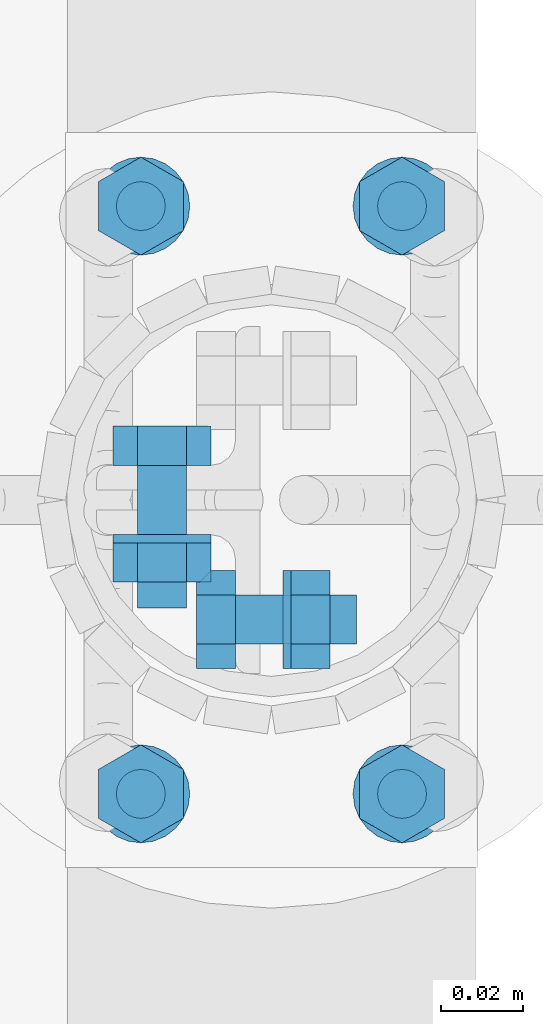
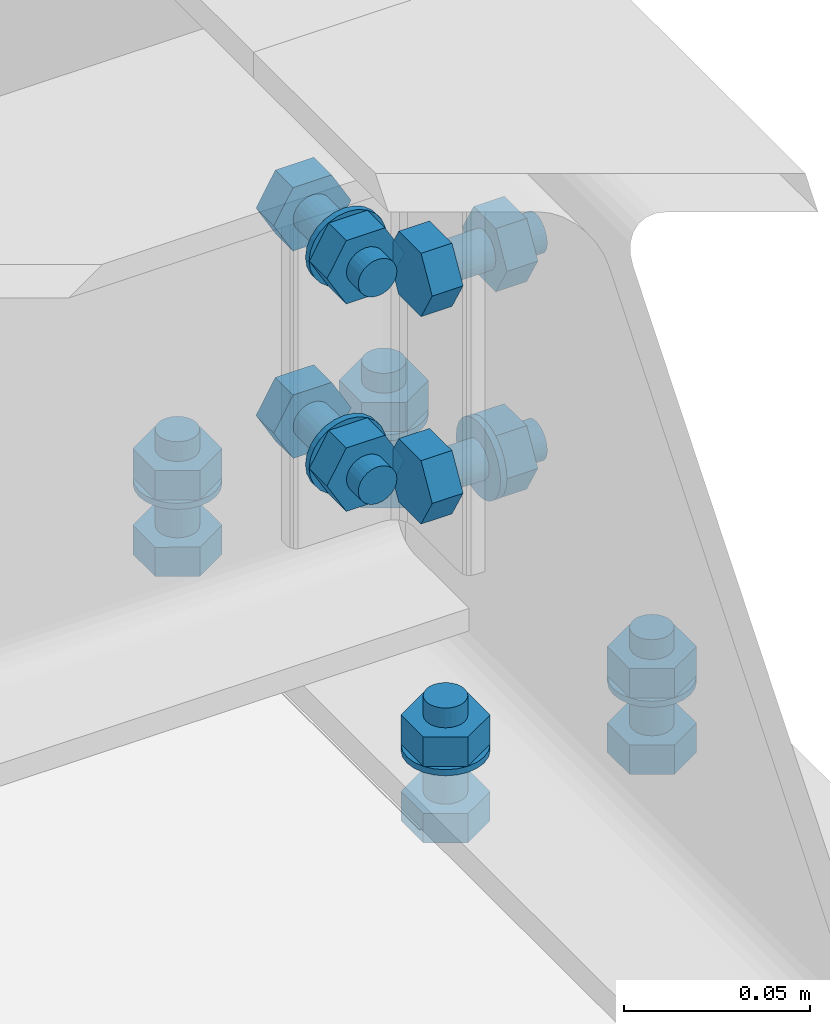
# One storey, part 38 of 84: 39 mechanical fasteners.
"""IFC4 building model written with IfcOpenShell, lengths in metres."""

from ifc_helpers import new_model, si_unit, frame, origin_with_axes, place, context, project, spatial, polyline, outline, extrude, type_object, element, save


model = new_model("IFC4")

# Units and contexts
model_context = context("Model", 3, precision=1e-05, world=origin_with_axes())
ifc_project = project(units=[si_unit("LENGTHUNIT", "METRE"), si_unit("AREAUNIT", "SQUARE_METRE"), si_unit("VOLUMEUNIT", "CUBIC_METRE"), si_unit("MASSUNIT", "GRAM", prefix="KILO"), si_unit("TIMEUNIT", "SECOND"), si_unit("PLANEANGLEUNIT", "RADIAN"), si_unit("SOLIDANGLEUNIT", "STERADIAN"), si_unit("THERMODYNAMICTEMPERATUREUNIT", "DEGREE_CELSIUS")], contexts=[model_context])

# Site, building, storey
placement_1 = place(None, origin_with_axes())
site = spatial("IfcSite", under=ifc_project, at=placement_1, Name="Italia", CompositionType="ELEMENT")
building = spatial("IfcBuilding", under=site, at=placement_1, Name="Tettoia", CompositionType="ELEMENT")
storey_placement = place(None, frame((0.0, 0.0, 4.199999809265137), z_axis=(0.0, 0.0, 1.0), x_axis=(1.0, 0.0, 0.0)))
storey = spatial("IfcBuildingStorey", under=building, at=storey_placement, Name="Storey 1", CompositionType="ELEMENT", Elevation=4.199999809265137)

# Mechanical fasteners
mechanical_fastener_type_1 = type_object("IfcMechanicalFastenerType", Name="Collegamento 0106_-006", PredefinedType="BOLT")
placement_2 = place(placement_1, origin_with_axes())
mechanical_fastener_1_placement = place(placement_2, origin_with_axes())
element("IfcMechanicalFastener", 1, at=mechanical_fastener_1_placement, inside=storey, type_object=mechanical_fastener_type_1, Name="Collegamento 0106_-006", NominalDiameter=0.0119999, context=model_context, shape_type="SweptSolid", body=[
    extrude(outline(polyline([(0.0, 0.0), (0.0120001, 0.0), (0.0180001, -0.0103931), (0.0120001, -0.0207853), (0.0, -0.0207853), (-0.00600004, -0.0103931), (0.0, 0.0)])), frame((11.3324, 7.366, 4.195), z_axis=(0.0, 0.0, -1.0), x_axis=(0.0, 1.0, 0.0)), (0.0, 0.0, 1.0), 0.00959969),
])
mechanical_fastener_type_2 = type_object("IfcMechanicalFastenerType", Name="Collegamento 0106_-006", PredefinedType="BOLT")
mechanical_fastener_2_placement = place(placement_2, origin_with_axes())
element("IfcMechanicalFastener", 2, at=mechanical_fastener_2_placement, inside=storey, type_object=mechanical_fastener_type_2, Name="Collegamento 0106_-006", NominalDiameter=0.012, context=model_context, shape_type="SweptSolid", body=[
    extrude(outline(polyline([(0.0, 0.0), (-0.000204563, -0.00155258), (-0.000803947, -0.00300026), (-0.00175762, -0.0042429), (-0.00300026, -0.00519657), (-0.00444698, -0.00579548), (-0.00600004, -0.00599957), (-0.0075531, -0.00579548), (-0.00899982, -0.00519657), (-0.0102425, -0.0042429), (-0.0111961, -0.00300026), (-0.0117955, -0.00155258), (-0.0120001, 0.0), (-0.0117955, 0.00155258), (-0.0111961, 0.00300026), (-0.0102425, 0.0042429), (-0.00899982, 0.00519657), (-0.0075531, 0.00579548), (-0.00600004, 0.00599957), (-0.00444698, 0.00579548), (-0.00300026, 0.00519657), (-0.00175762, 0.0042429), (-0.000803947, 0.00300026), (-0.000204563, 0.00155258), (0.0, 0.0)])), frame((11.322, 7.378, 4.2265), z_axis=(0.0, 0.0, -1.0), x_axis=(0.0, 1.0, 0.0)), (0.0, 0.0, 1.0), 0.0315003),
])
mechanical_fastener_type_3 = type_object("IfcMechanicalFastenerType", Name="Collegamento 0106_-006", PredefinedType="BOLT")
mechanical_fastener_3_placement = place(placement_2, origin_with_axes())
element("IfcMechanicalFastener", 3, at=mechanical_fastener_3_placement, inside=storey, type_object=mechanical_fastener_type_3, Name="Collegamento 0106_-006", NominalDiameter=0.0119999, context=model_context, shape_type="SweptSolid", body=[
    extrude(outline(polyline([(0.0, 0.0), (0.0120001, 0.0), (0.0180001, -0.0103931), (0.0120001, -0.0207853), (0.0, -0.0207853), (-0.00600004, -0.0103931), (0.0, 0.0)])), frame((11.3324, 7.366, 4.2201), z_axis=(0.0, 0.0, -1.0), x_axis=(0.0, 1.0, 0.0)), (0.0, 0.0, 1.0), 0.00960016),
])
mechanical_fastener_type_4 = type_object("IfcMechanicalFastenerType", Name="Collegamento 0106_-006", PredefinedType="BOLT")
mechanical_fastener_4_placement = place(placement_2, origin_with_axes())
element("IfcMechanicalFastener", 4, at=mechanical_fastener_4_placement, inside=storey, type_object=mechanical_fastener_type_4, Name="Collegamento 0106_-006", NominalDiameter=0.024, context=model_context, shape_type="SweptSolid", body=[
    extrude(outline(polyline([(0.0, 0.0), (-0.000409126, -0.00310612), (-0.00160789, -0.00599957), (-0.00351477, -0.00848484), (-0.00600004, -0.0103922), (-0.00889444, -0.011591), (-0.0120001, -0.0120001), (-0.0151057, -0.011591), (-0.0180001, -0.0103922), (-0.0204854, -0.00848484), (-0.0223923, -0.00599957), (-0.023591, -0.00310612), (-0.0240002, 0.0), (-0.023591, 0.00310612), (-0.0223923, 0.00599957), (-0.0204854, 0.00848484), (-0.0180001, 0.0103922), (-0.0151057, 0.011591), (-0.0120001, 0.0120001), (-0.00889444, 0.011591), (-0.00600004, 0.0103922), (-0.00351477, 0.00848484), (-0.00160789, 0.00599957), (-0.000409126, 0.00310612), (0.0, 0.0)])), frame((11.322, 7.384, 4.2105), z_axis=(0.0, 0.0, -1.0), x_axis=(0.0, 1.0, 0.0)), (0.0, 0.0, 1.0), 0.00199986),
])
mechanical_fastener_type_5 = type_object("IfcMechanicalFastenerType", Name="Collegamento 0106_-006", PredefinedType="BOLT")
mechanical_fastener_5_placement = place(placement_2, origin_with_axes())
element("IfcMechanicalFastener", 5, at=mechanical_fastener_5_placement, inside=storey, type_object=mechanical_fastener_type_5, Name="Collegamento 0106_-006", NominalDiameter=0.0119999, context=model_context, shape_type="SweptSolid", body=[
    extrude(outline(polyline([(0.0, 0.0), (0.0120001, 0.0), (0.0180001, -0.0103931), (0.0120001, -0.0207853), (0.0, -0.0207853), (-0.00600004, -0.0103931), (0.0, 0.0)])), frame((11.3324, 7.222, 4.195), z_axis=(0.0, 0.0, -1.0), x_axis=(0.0, 1.0, 0.0)), (0.0, 0.0, 1.0), 0.00959969),
])
mechanical_fastener_type_6 = type_object("IfcMechanicalFastenerType", Name="Collegamento 0106_-006", PredefinedType="BOLT")
mechanical_fastener_6_placement = place(placement_2, origin_with_axes())
element("IfcMechanicalFastener", 6, at=mechanical_fastener_6_placement, inside=storey, type_object=mechanical_fastener_type_6, Name="Collegamento 0106_-006", NominalDiameter=0.012, context=model_context, shape_type="SweptSolid", body=[
    extrude(outline(polyline([(0.0, 0.0), (-0.000204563, -0.00155258), (-0.000803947, -0.00300026), (-0.00175762, -0.0042429), (-0.00300026, -0.00519657), (-0.00444698, -0.00579548), (-0.00600004, -0.00599957), (-0.0075531, -0.00579548), (-0.00899982, -0.00519657), (-0.0102425, -0.0042429), (-0.0111961, -0.00300026), (-0.0117955, -0.00155258), (-0.0120001, 0.0), (-0.0117955, 0.00155258), (-0.0111961, 0.00300026), (-0.0102425, 0.0042429), (-0.00899982, 0.00519657), (-0.0075531, 0.00579548), (-0.00600004, 0.00599957), (-0.00444698, 0.00579548), (-0.00300026, 0.00519657), (-0.00175762, 0.0042429), (-0.000803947, 0.00300026), (-0.000204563, 0.00155258), (0.0, 0.0)])), frame((11.322, 7.234, 4.2265), z_axis=(0.0, 0.0, -1.0), x_axis=(0.0, 1.0, 0.0)), (0.0, 0.0, 1.0), 0.0315003),
])
mechanical_fastener_type_7 = type_object("IfcMechanicalFastenerType", Name="Collegamento 0106_-006", PredefinedType="BOLT")
mechanical_fastener_7_placement = place(placement_2, origin_with_axes())
element("IfcMechanicalFastener", 7, at=mechanical_fastener_7_placement, inside=storey, type_object=mechanical_fastener_type_7, Name="Collegamento 0106_-006", NominalDiameter=0.0119999, context=model_context, shape_type="SweptSolid", body=[
    extrude(outline(polyline([(0.0, 0.0), (0.0120001, 0.0), (0.0180001, -0.0103931), (0.0120001, -0.0207853), (0.0, -0.0207853), (-0.00600004, -0.0103931), (0.0, 0.0)])), frame((11.3324, 7.222, 4.2201), z_axis=(0.0, 0.0, -1.0), x_axis=(0.0, 1.0, 0.0)), (0.0, 0.0, 1.0), 0.00960016),
])
mechanical_fastener_type_8 = type_object("IfcMechanicalFastenerType", Name="Collegamento 0106_-006", PredefinedType="BOLT")
mechanical_fastener_8_placement = place(placement_2, origin_with_axes())
element("IfcMechanicalFastener", 8, at=mechanical_fastener_8_placement, inside=storey, type_object=mechanical_fastener_type_8, Name="Collegamento 0106_-006", NominalDiameter=0.024, context=model_context, shape_type="SweptSolid", body=[
    extrude(outline(polyline([(0.0, 0.0), (-0.000409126, -0.00310612), (-0.00160789, -0.00599957), (-0.00351477, -0.00848484), (-0.00600004, -0.0103922), (-0.00889444, -0.011591), (-0.0120001, -0.0120001), (-0.0151057, -0.011591), (-0.0180001, -0.0103922), (-0.0204854, -0.00848484), (-0.0223923, -0.00599957), (-0.023591, -0.00310612), (-0.0240002, 0.0), (-0.023591, 0.00310612), (-0.0223923, 0.00599957), (-0.0204854, 0.00848484), (-0.0180001, 0.0103922), (-0.0151057, 0.011591), (-0.0120001, 0.0120001), (-0.00889444, 0.011591), (-0.00600004, 0.0103922), (-0.00351477, 0.00848484), (-0.00160789, 0.00599957), (-0.000409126, 0.00310612), (0.0, 0.0)])), frame((11.322, 7.24, 4.2105), z_axis=(0.0, 0.0, -1.0), x_axis=(0.0, 1.0, 0.0)), (0.0, 0.0, 1.0), 0.00199986),
])
mechanical_fastener_type_9 = type_object("IfcMechanicalFastenerType", Name="Collegamento 0106_-006", PredefinedType="BOLT")
mechanical_fastener_9_placement = place(placement_2, origin_with_axes())
element("IfcMechanicalFastener", 9, at=mechanical_fastener_9_placement, inside=storey, type_object=mechanical_fastener_type_9, Name="Collegamento 0106_-006", NominalDiameter=0.0119999, context=model_context, shape_type="SweptSolid", body=[
    extrude(outline(polyline([(0.0, 0.0), (0.0120001, 0.0), (0.0180001, -0.0103922), (0.0120001, -0.0207853), (0.0, -0.0207853), (-0.00600004, -0.0103922), (0.0, 0.0)])), frame((11.2684, 7.366, 4.195), z_axis=(0.0, 0.0, -1.0), x_axis=(0.0, 1.0, 0.0)), (0.0, 0.0, 1.0), 0.00959969),
])
mechanical_fastener_type_10 = type_object("IfcMechanicalFastenerType", Name="Collegamento 0106_-006", PredefinedType="BOLT")
mechanical_fastener_10_placement = place(placement_2, origin_with_axes())
element("IfcMechanicalFastener", 10, at=mechanical_fastener_10_placement, inside=storey, type_object=mechanical_fastener_type_10, Name="Collegamento 0106_-006", NominalDiameter=0.012, context=model_context, shape_type="SweptSolid", body=[
    extrude(outline(polyline([(0.0, 0.0), (-0.000204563, -0.00155258), (-0.000803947, -0.00300026), (-0.00175762, -0.0042429), (-0.00300026, -0.00519657), (-0.00444698, -0.00579548), (-0.00600004, -0.00599957), (-0.0075531, -0.00579548), (-0.00899982, -0.00519657), (-0.0102425, -0.0042429), (-0.0111961, -0.00300026), (-0.0117955, -0.00155258), (-0.0120001, 0.0), (-0.0117955, 0.00155258), (-0.0111961, 0.00300026), (-0.0102425, 0.0042429), (-0.00899982, 0.00519657), (-0.0075531, 0.00579548), (-0.00600004, 0.00599957), (-0.00444698, 0.00579548), (-0.00300026, 0.00519657), (-0.00175762, 0.0042429), (-0.000803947, 0.00300026), (-0.000204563, 0.00155258), (0.0, 0.0)])), frame((11.258, 7.378, 4.2265), z_axis=(0.0, 0.0, -1.0), x_axis=(0.0, 1.0, 0.0)), (0.0, 0.0, 1.0), 0.0315003),
])
mechanical_fastener_type_11 = type_object("IfcMechanicalFastenerType", Name="Collegamento 0106_-006", PredefinedType="BOLT")
mechanical_fastener_11_placement = place(placement_2, origin_with_axes())
element("IfcMechanicalFastener", 11, at=mechanical_fastener_11_placement, inside=storey, type_object=mechanical_fastener_type_11, Name="Collegamento 0106_-006", NominalDiameter=0.0119999, context=model_context, shape_type="SweptSolid", body=[
    extrude(outline(polyline([(0.0, 0.0), (0.0120001, 0.0), (0.0180001, -0.0103922), (0.0120001, -0.0207853), (0.0, -0.0207853), (-0.00600004, -0.0103922), (0.0, 0.0)])), frame((11.2684, 7.366, 4.2201), z_axis=(0.0, 0.0, -1.0), x_axis=(0.0, 1.0, 0.0)), (0.0, 0.0, 1.0), 0.00960016),
])
mechanical_fastener_type_12 = type_object("IfcMechanicalFastenerType", Name="Collegamento 0106_-006", PredefinedType="BOLT")
mechanical_fastener_12_placement = place(placement_2, origin_with_axes())
element("IfcMechanicalFastener", 12, at=mechanical_fastener_12_placement, inside=storey, type_object=mechanical_fastener_type_12, Name="Collegamento 0106_-006", NominalDiameter=0.024, context=model_context, shape_type="SweptSolid", body=[
    extrude(outline(polyline([(0.0, 0.0), (-0.000409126, -0.00310612), (-0.00160789, -0.00599957), (-0.00351477, -0.00848484), (-0.00600004, -0.0103922), (-0.00889444, -0.011591), (-0.0120001, -0.0120001), (-0.0151057, -0.011591), (-0.0180001, -0.0103922), (-0.0204854, -0.00848484), (-0.0223923, -0.00599957), (-0.023591, -0.00310612), (-0.0240002, 0.0), (-0.023591, 0.00310612), (-0.0223923, 0.00599957), (-0.0204854, 0.00848484), (-0.0180001, 0.0103922), (-0.0151057, 0.011591), (-0.0120001, 0.0120001), (-0.00889444, 0.011591), (-0.00600004, 0.0103922), (-0.00351477, 0.00848484), (-0.00160789, 0.00599957), (-0.000409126, 0.00310612), (0.0, 0.0)])), frame((11.258, 7.384, 4.2105), z_axis=(0.0, 0.0, -1.0), x_axis=(0.0, 1.0, 0.0)), (0.0, 0.0, 1.0), 0.00199986),
])
mechanical_fastener_type_13 = type_object("IfcMechanicalFastenerType", Name="Collegamento 0106_-006", PredefinedType="BOLT")
mechanical_fastener_13_placement = place(placement_2, origin_with_axes())
element("IfcMechanicalFastener", 13, at=mechanical_fastener_13_placement, inside=storey, type_object=mechanical_fastener_type_13, Name="Collegamento 0106_-006", NominalDiameter=0.0119999, context=model_context, shape_type="SweptSolid", body=[
    extrude(outline(polyline([(0.0, 0.0), (0.0120001, 0.0), (0.0180001, -0.0103922), (0.0120001, -0.0207853), (0.0, -0.0207853), (-0.00600004, -0.0103922), (0.0, 0.0)])), frame((11.2684, 7.222, 4.195), z_axis=(0.0, 0.0, -1.0), x_axis=(0.0, 1.0, 0.0)), (0.0, 0.0, 1.0), 0.00959969),
])
mechanical_fastener_type_14 = type_object("IfcMechanicalFastenerType", Name="Collegamento 0106_-006", PredefinedType="BOLT")
mechanical_fastener_14_placement = place(placement_2, origin_with_axes())
element("IfcMechanicalFastener", 14, at=mechanical_fastener_14_placement, inside=storey, type_object=mechanical_fastener_type_14, Name="Collegamento 0106_-006", NominalDiameter=0.012, context=model_context, shape_type="SweptSolid", body=[
    extrude(outline(polyline([(0.0, 0.0), (-0.000204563, -0.00155258), (-0.000803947, -0.00300026), (-0.00175762, -0.0042429), (-0.00300026, -0.00519657), (-0.00444698, -0.00579548), (-0.00600004, -0.00599957), (-0.0075531, -0.00579548), (-0.00899982, -0.00519657), (-0.0102425, -0.0042429), (-0.0111961, -0.00300026), (-0.0117955, -0.00155258), (-0.0120001, 0.0), (-0.0117955, 0.00155258), (-0.0111961, 0.00300026), (-0.0102425, 0.0042429), (-0.00899982, 0.00519657), (-0.0075531, 0.00579548), (-0.00600004, 0.00599957), (-0.00444698, 0.00579548), (-0.00300026, 0.00519657), (-0.00175762, 0.0042429), (-0.000803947, 0.00300026), (-0.000204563, 0.00155258), (0.0, 0.0)])), frame((11.258, 7.234, 4.2265), z_axis=(0.0, 0.0, -1.0), x_axis=(0.0, 1.0, 0.0)), (0.0, 0.0, 1.0), 0.0315003),
])
mechanical_fastener_type_15 = type_object("IfcMechanicalFastenerType", Name="Collegamento 0106_-006", PredefinedType="BOLT")
mechanical_fastener_15_placement = place(placement_2, origin_with_axes())
element("IfcMechanicalFastener", 15, at=mechanical_fastener_15_placement, inside=storey, type_object=mechanical_fastener_type_15, Name="Collegamento 0106_-006", NominalDiameter=0.0119999, context=model_context, shape_type="SweptSolid", body=[
    extrude(outline(polyline([(0.0, 0.0), (0.0120001, 0.0), (0.0180001, -0.0103922), (0.0120001, -0.0207853), (0.0, -0.0207853), (-0.00600004, -0.0103922), (0.0, 0.0)])), frame((11.2684, 7.222, 4.2201), z_axis=(0.0, 0.0, -1.0), x_axis=(0.0, 1.0, 0.0)), (0.0, 0.0, 1.0), 0.00960016),
])
mechanical_fastener_type_16 = type_object("IfcMechanicalFastenerType", Name="Collegamento 0106_-006", PredefinedType="BOLT")
mechanical_fastener_16_placement = place(placement_2, origin_with_axes())
element("IfcMechanicalFastener", 16, at=mechanical_fastener_16_placement, inside=storey, type_object=mechanical_fastener_type_16, Name="Collegamento 0106_-006", NominalDiameter=0.024, context=model_context, shape_type="SweptSolid", body=[
    extrude(outline(polyline([(0.0, 0.0), (-0.000409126, -0.00310612), (-0.00160789, -0.00599957), (-0.00351477, -0.00848484), (-0.00600004, -0.0103922), (-0.00889444, -0.011591), (-0.0120001, -0.0120001), (-0.0151057, -0.011591), (-0.0180001, -0.0103922), (-0.0204854, -0.00848484), (-0.0223923, -0.00599957), (-0.023591, -0.00310612), (-0.0240002, 0.0), (-0.023591, 0.00310612), (-0.0223923, 0.00599957), (-0.0204854, 0.00848484), (-0.0180001, 0.0103922), (-0.0151057, 0.011591), (-0.0120001, 0.0120001), (-0.00889444, 0.011591), (-0.00600004, 0.0103922), (-0.00351477, 0.00848484), (-0.00160789, 0.00599957), (-0.000409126, 0.00310612), (0.0, 0.0)])), frame((11.258, 7.24, 4.2105), z_axis=(0.0, 0.0, -1.0), x_axis=(0.0, 1.0, 0.0)), (0.0, 0.0, 1.0), 0.00199986),
])
mechanical_fastener_type_17 = type_object("IfcMechanicalFastenerType", Name="Collegamento 0106_0105", PredefinedType="BOLT")
mechanical_fastener_17_placement = place(placement_2, origin_with_axes())
element("IfcMechanicalFastener", 17, at=mechanical_fastener_17_placement, inside=storey, type_object=mechanical_fastener_type_17, Name="Collegamento 0106_0105", NominalDiameter=0.0119997, context=model_context, shape_type="SweptSolid", body=[
    extrude(outline(polyline([(0.0, 0.0), (-0.0120001, 0.0), (-0.0179996, 0.0103922), (-0.0120001, 0.0207844), (0.0, 0.0207844), (0.00600052, 0.0103922), (0.0, 0.0)])), frame((11.2572, 7.3085, 4.25561), z_axis=(0.0, 1.0, 0.0), x_axis=(-1.0, 0.0, 0.0)), (0.0, 0.0, 1.0), 0.00959969),
])
mechanical_fastener_type_18 = type_object("IfcMechanicalFastenerType", Name="Collegamento 0106_0105", PredefinedType="BOLT")
mechanical_fastener_18_placement = place(placement_2, origin_with_axes())
element("IfcMechanicalFastener", 18, at=mechanical_fastener_18_placement, inside=storey, type_object=mechanical_fastener_type_18, Name="Collegamento 0106_0105", NominalDiameter=0.012, context=model_context, shape_type="SweptSolid", body=[
    extrude(outline(polyline([(0.0, 0.0), (-0.000204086, -0.00155306), (-0.000802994, -0.00299978), (-0.00175667, -0.00424242), (-0.00299931, -0.00519609), (-0.00444698, -0.00579548), (-0.00599957, -0.00600004), (-0.00755215, -0.00579548), (-0.00899982, -0.00519609), (-0.0102425, -0.00424242), (-0.0111961, -0.00299978), (-0.011795, -0.00155306), (-0.0119991, 0.0), (-0.011795, 0.00155306), (-0.0111961, 0.00299978), (-0.0102425, 0.00424242), (-0.00899982, 0.00519609), (-0.00755215, 0.00579548), (-0.00599957, 0.00600004), (-0.00444698, 0.00579548), (-0.00299931, 0.00519609), (-0.00175667, 0.00424242), (-0.000802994, 0.00299978), (-0.000204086, 0.00155306), (0.0, 0.0)])), frame((11.2572, 7.2735, 4.266), z_axis=(0.0, 1.0, 0.0), x_axis=(-1.0, 0.0, 0.0)), (0.0, 0.0, 1.0), 0.0350003),
])
mechanical_fastener_type_19 = type_object("IfcMechanicalFastenerType", Name="Collegamento 0106_0105", PredefinedType="BOLT")
mechanical_fastener_19_placement = place(placement_2, origin_with_axes())
element("IfcMechanicalFastener", 19, at=mechanical_fastener_19_placement, inside=storey, type_object=mechanical_fastener_type_19, Name="Collegamento 0106_0105", NominalDiameter=0.0119997, context=model_context, shape_type="SweptSolid", body=[
    extrude(outline(polyline([(0.0, 0.0), (-0.0120001, 0.0), (-0.0179996, 0.0103922), (-0.0120001, 0.0207844), (0.0, 0.0207844), (0.00600052, 0.0103922), (0.0, 0.0)])), frame((11.2572, 7.2799, 4.25561), z_axis=(0.0, 1.0, 0.0), x_axis=(-1.0, 0.0, 0.0)), (0.0, 0.0, 1.0), 0.00960016),
])
mechanical_fastener_type_20 = type_object("IfcMechanicalFastenerType", Name="Collegamento 0106_0105", PredefinedType="BOLT")
mechanical_fastener_20_placement = place(placement_2, origin_with_axes())
element("IfcMechanicalFastener", 20, at=mechanical_fastener_20_placement, inside=storey, type_object=mechanical_fastener_type_20, Name="Collegamento 0106_0105", NominalDiameter=0.024, context=model_context, shape_type="SweptSolid", body=[
    extrude(outline(polyline([(0.0, 0.0), (-0.000409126, -0.00310564), (-0.00160789, -0.00600004), (-0.00351524, -0.00848532), (-0.00600052, -0.0103922), (-0.00889397, -0.011591), (-0.0120001, -0.0120001), (-0.0151062, -0.011591), (-0.0179996, -0.0103922), (-0.0204849, -0.00848532), (-0.0223923, -0.00600004), (-0.023591, -0.00310564), (-0.0240002, 0.0), (-0.023591, 0.00310564), (-0.0223923, 0.00600004), (-0.0204849, 0.00848532), (-0.0179996, 0.0103922), (-0.0151062, 0.011591), (-0.0120001, 0.0120001), (-0.00889397, 0.011591), (-0.00600052, 0.0103922), (-0.00351524, 0.00848532), (-0.00160789, 0.00600004), (-0.000409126, 0.00310564), (0.0, 0.0)])), frame((11.2512, 7.2895, 4.266), z_axis=(0.0, 1.0, 0.0), x_axis=(-1.0, 0.0, 0.0)), (0.0, 0.0, 1.0), 0.00199986),
])
mechanical_fastener_type_21 = type_object("IfcMechanicalFastenerType", Name="Collegamento 0106_0105", PredefinedType="BOLT")
mechanical_fastener_21_placement = place(placement_2, origin_with_axes())
element("IfcMechanicalFastener", 21, at=mechanical_fastener_21_placement, inside=storey, type_object=mechanical_fastener_type_21, Name="Collegamento 0106_0105", NominalDiameter=0.0119997, context=model_context, shape_type="SweptSolid", body=[
    extrude(outline(polyline([(0.0, 0.0), (-0.0120001, 0.0), (-0.0179996, 0.0103922), (-0.0120001, 0.0207844), (0.0, 0.0207844), (0.00600052, 0.0103922), (0.0, 0.0)])), frame((11.2572, 7.3085, 4.32361), z_axis=(0.0, 1.0, 0.0), x_axis=(-1.0, 0.0, 0.0)), (0.0, 0.0, 1.0), 0.00959969),
])
mechanical_fastener_type_22 = type_object("IfcMechanicalFastenerType", Name="Collegamento 0106_0105", PredefinedType="BOLT")
mechanical_fastener_22_placement = place(placement_2, origin_with_axes())
element("IfcMechanicalFastener", 22, at=mechanical_fastener_22_placement, inside=storey, type_object=mechanical_fastener_type_22, Name="Collegamento 0106_0105", NominalDiameter=0.012, context=model_context, shape_type="SweptSolid", body=[
    extrude(outline(polyline([(0.0, 0.0), (-0.000204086, -0.00155306), (-0.000802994, -0.00299978), (-0.00175667, -0.00424242), (-0.00299931, -0.00519609), (-0.00444698, -0.00579548), (-0.00599957, -0.00600004), (-0.00755215, -0.00579548), (-0.00899982, -0.00519609), (-0.0102425, -0.00424242), (-0.0111961, -0.00299978), (-0.011795, -0.00155306), (-0.0119991, 0.0), (-0.011795, 0.00155306), (-0.0111961, 0.00299978), (-0.0102425, 0.00424242), (-0.00899982, 0.00519609), (-0.00755215, 0.00579548), (-0.00599957, 0.00600004), (-0.00444698, 0.00579548), (-0.00299931, 0.00519609), (-0.00175667, 0.00424242), (-0.000802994, 0.00299978), (-0.000204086, 0.00155306), (0.0, 0.0)])), frame((11.2572, 7.2735, 4.334), z_axis=(0.0, 1.0, 0.0), x_axis=(-1.0, 0.0, 0.0)), (0.0, 0.0, 1.0), 0.0350003),
])
mechanical_fastener_type_23 = type_object("IfcMechanicalFastenerType", Name="Collegamento 0106_0105", PredefinedType="BOLT")
mechanical_fastener_23_placement = place(placement_2, origin_with_axes())
element("IfcMechanicalFastener", 23, at=mechanical_fastener_23_placement, inside=storey, type_object=mechanical_fastener_type_23, Name="Collegamento 0106_0105", NominalDiameter=0.0119997, context=model_context, shape_type="SweptSolid", body=[
    extrude(outline(polyline([(0.0, 0.0), (-0.0120001, 0.0), (-0.0179996, 0.0103922), (-0.0120001, 0.0207844), (0.0, 0.0207844), (0.00600052, 0.0103922), (0.0, 0.0)])), frame((11.2572, 7.2799, 4.32361), z_axis=(0.0, 1.0, 0.0), x_axis=(-1.0, 0.0, 0.0)), (0.0, 0.0, 1.0), 0.00960016),
])
mechanical_fastener_type_24 = type_object("IfcMechanicalFastenerType", Name="Collegamento 0106_0105", PredefinedType="BOLT")
mechanical_fastener_24_placement = place(placement_2, origin_with_axes())
element("IfcMechanicalFastener", 24, at=mechanical_fastener_24_placement, inside=storey, type_object=mechanical_fastener_type_24, Name="Collegamento 0106_0105", NominalDiameter=0.024, context=model_context, shape_type="SweptSolid", body=[
    extrude(outline(polyline([(0.0, 0.0), (-0.000409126, -0.00310564), (-0.00160789, -0.00600004), (-0.00351524, -0.00848532), (-0.00600052, -0.0103922), (-0.00889397, -0.011591), (-0.0120001, -0.0120001), (-0.0151062, -0.011591), (-0.0179996, -0.0103922), (-0.0204849, -0.00848532), (-0.0223923, -0.00600004), (-0.023591, -0.00310564), (-0.0240002, 0.0), (-0.023591, 0.00310564), (-0.0223923, 0.00600004), (-0.0204849, 0.00848532), (-0.0179996, 0.0103922), (-0.0151062, 0.011591), (-0.0120001, 0.0120001), (-0.00889397, 0.011591), (-0.00600052, 0.0103922), (-0.00351524, 0.00848532), (-0.00160789, 0.00600004), (-0.000409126, 0.00310564), (0.0, 0.0)])), frame((11.2512, 7.2895, 4.334), z_axis=(0.0, 1.0, 0.0), x_axis=(-1.0, 0.0, 0.0)), (0.0, 0.0, 1.0), 0.00199986),
])
mechanical_fastener_type_25 = type_object("IfcMechanicalFastenerType", Name="Collegamento 0106_0105", PredefinedType="BOLT")
mechanical_fastener_25_placement = place(placement_2, origin_with_axes())
element("IfcMechanicalFastener", 25, at=mechanical_fastener_25_placement, inside=storey, type_object=mechanical_fastener_type_25, Name="Collegamento 0106_0105", NominalDiameter=0.0119997, context=model_context, shape_type="SweptSolid", body=[
    extrude(outline(polyline([(0.0, 0.0), (-0.0120001, 0.0), (-0.0179996, 0.0103922), (-0.0120001, 0.0207844), (0.0, 0.0207844), (0.00600052, 0.0103922), (0.0, 0.0)])), frame((11.2572, 7.3085, 4.25561), z_axis=(0.0, 1.0, 0.0), x_axis=(-1.0, 0.0, 0.0)), (0.0, 0.0, 1.0), 0.00959969),
])
mechanical_fastener_type_26 = type_object("IfcMechanicalFastenerType", Name="Collegamento 0106_0105", PredefinedType="BOLT")
mechanical_fastener_26_placement = place(placement_2, origin_with_axes())
element("IfcMechanicalFastener", 26, at=mechanical_fastener_26_placement, inside=storey, type_object=mechanical_fastener_type_26, Name="Collegamento 0106_0105", NominalDiameter=0.012, context=model_context, shape_type="SweptSolid", body=[
    extrude(outline(polyline([(0.0, 0.0), (-0.000204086, -0.00155306), (-0.000802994, -0.00299978), (-0.00175667, -0.00424242), (-0.00299931, -0.00519609), (-0.00444698, -0.00579548), (-0.00599957, -0.00600004), (-0.00755215, -0.00579548), (-0.00899982, -0.00519609), (-0.0102425, -0.00424242), (-0.0111961, -0.00299978), (-0.011795, -0.00155306), (-0.0119991, 0.0), (-0.011795, 0.00155306), (-0.0111961, 0.00299978), (-0.0102425, 0.00424242), (-0.00899982, 0.00519609), (-0.00755215, 0.00579548), (-0.00599957, 0.00600004), (-0.00444698, 0.00579548), (-0.00299931, 0.00519609), (-0.00175667, 0.00424242), (-0.000802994, 0.00299978), (-0.000204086, 0.00155306), (0.0, 0.0)])), frame((11.2572, 7.2735, 4.266), z_axis=(0.0, 1.0, 0.0), x_axis=(-1.0, 0.0, 0.0)), (0.0, 0.0, 1.0), 0.0350003),
])
mechanical_fastener_type_27 = type_object("IfcMechanicalFastenerType", Name="Collegamento 0106_0105", PredefinedType="BOLT")
mechanical_fastener_27_placement = place(placement_2, origin_with_axes())
element("IfcMechanicalFastener", 27, at=mechanical_fastener_27_placement, inside=storey, type_object=mechanical_fastener_type_27, Name="Collegamento 0106_0105", NominalDiameter=0.0119997, context=model_context, shape_type="SweptSolid", body=[
    extrude(outline(polyline([(0.0, 0.0), (-0.0120001, 0.0), (-0.0179996, 0.0103922), (-0.0120001, 0.0207844), (0.0, 0.0207844), (0.00600052, 0.0103922), (0.0, 0.0)])), frame((11.2572, 7.2799, 4.25561), z_axis=(0.0, 1.0, 0.0), x_axis=(-1.0, 0.0, 0.0)), (0.0, 0.0, 1.0), 0.00960016),
])
mechanical_fastener_type_28 = type_object("IfcMechanicalFastenerType", Name="Collegamento 0106_0105", PredefinedType="BOLT")
mechanical_fastener_28_placement = place(placement_2, origin_with_axes())
element("IfcMechanicalFastener", 28, at=mechanical_fastener_28_placement, inside=storey, type_object=mechanical_fastener_type_28, Name="Collegamento 0106_0105", NominalDiameter=0.024, context=model_context, shape_type="SweptSolid", body=[
    extrude(outline(polyline([(0.0, 0.0), (-0.000409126, -0.00310564), (-0.00160789, -0.00600004), (-0.00351524, -0.00848532), (-0.00600052, -0.0103922), (-0.00889397, -0.011591), (-0.0120001, -0.0120001), (-0.0151062, -0.011591), (-0.0179996, -0.0103922), (-0.0204849, -0.00848532), (-0.0223923, -0.00600004), (-0.023591, -0.00310564), (-0.0240002, 0.0), (-0.023591, 0.00310564), (-0.0223923, 0.00600004), (-0.0204849, 0.00848532), (-0.0179996, 0.0103922), (-0.0151062, 0.011591), (-0.0120001, 0.0120001), (-0.00889397, 0.011591), (-0.00600052, 0.0103922), (-0.00351524, 0.00848532), (-0.00160789, 0.00600004), (-0.000409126, 0.00310564), (0.0, 0.0)])), frame((11.2512, 7.2895, 4.266), z_axis=(0.0, 1.0, 0.0), x_axis=(-1.0, 0.0, 0.0)), (0.0, 0.0, 1.0), 0.00199986),
])
mechanical_fastener_type_29 = type_object("IfcMechanicalFastenerType", Name="Collegamento 0106_0105", PredefinedType="BOLT")
mechanical_fastener_29_placement = place(placement_2, origin_with_axes())
element("IfcMechanicalFastener", 29, at=mechanical_fastener_29_placement, inside=storey, type_object=mechanical_fastener_type_29, Name="Collegamento 0106_0105", NominalDiameter=0.0119997, context=model_context, shape_type="SweptSolid", body=[
    extrude(outline(polyline([(0.0, 0.0), (-0.0120001, 0.0), (-0.0179996, 0.0103922), (-0.0120001, 0.0207844), (0.0, 0.0207844), (0.00600052, 0.0103922), (0.0, 0.0)])), frame((11.2572, 7.3085, 4.32361), z_axis=(0.0, 1.0, 0.0), x_axis=(-1.0, 0.0, 0.0)), (0.0, 0.0, 1.0), 0.00959969),
])
mechanical_fastener_type_30 = type_object("IfcMechanicalFastenerType", Name="Collegamento 0106_0105", PredefinedType="BOLT")
mechanical_fastener_30_placement = place(placement_2, origin_with_axes())
element("IfcMechanicalFastener", 30, at=mechanical_fastener_30_placement, inside=storey, type_object=mechanical_fastener_type_30, Name="Collegamento 0106_0105", NominalDiameter=0.012, context=model_context, shape_type="SweptSolid", body=[
    extrude(outline(polyline([(0.0, 0.0), (-0.000204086, -0.00155306), (-0.000802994, -0.00299978), (-0.00175667, -0.00424242), (-0.00299931, -0.00519609), (-0.00444698, -0.00579548), (-0.00599957, -0.00600004), (-0.00755215, -0.00579548), (-0.00899982, -0.00519609), (-0.0102425, -0.00424242), (-0.0111961, -0.00299978), (-0.011795, -0.00155306), (-0.0119991, 0.0), (-0.011795, 0.00155306), (-0.0111961, 0.00299978), (-0.0102425, 0.00424242), (-0.00899982, 0.00519609), (-0.00755215, 0.00579548), (-0.00599957, 0.00600004), (-0.00444698, 0.00579548), (-0.00299931, 0.00519609), (-0.00175667, 0.00424242), (-0.000802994, 0.00299978), (-0.000204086, 0.00155306), (0.0, 0.0)])), frame((11.2572, 7.2735, 4.334), z_axis=(0.0, 1.0, 0.0), x_axis=(-1.0, 0.0, 0.0)), (0.0, 0.0, 1.0), 0.0350003),
])
mechanical_fastener_type_31 = type_object("IfcMechanicalFastenerType", Name="Collegamento 0106_0105", PredefinedType="BOLT")
mechanical_fastener_31_placement = place(placement_2, origin_with_axes())
element("IfcMechanicalFastener", 31, at=mechanical_fastener_31_placement, inside=storey, type_object=mechanical_fastener_type_31, Name="Collegamento 0106_0105", NominalDiameter=0.0119997, context=model_context, shape_type="SweptSolid", body=[
    extrude(outline(polyline([(0.0, 0.0), (-0.0120001, 0.0), (-0.0179996, 0.0103922), (-0.0120001, 0.0207844), (0.0, 0.0207844), (0.00600052, 0.0103922), (0.0, 0.0)])), frame((11.2572, 7.2799, 4.32361), z_axis=(0.0, 1.0, 0.0), x_axis=(-1.0, 0.0, 0.0)), (0.0, 0.0, 1.0), 0.00960016),
])
mechanical_fastener_type_32 = type_object("IfcMechanicalFastenerType", Name="Collegamento 0106_0105", PredefinedType="BOLT")
mechanical_fastener_32_placement = place(placement_2, origin_with_axes())
element("IfcMechanicalFastener", 32, at=mechanical_fastener_32_placement, inside=storey, type_object=mechanical_fastener_type_32, Name="Collegamento 0106_0105", NominalDiameter=0.024, context=model_context, shape_type="SweptSolid", body=[
    extrude(outline(polyline([(0.0, 0.0), (-0.000409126, -0.00310564), (-0.00160789, -0.00600004), (-0.00351524, -0.00848532), (-0.00600052, -0.0103922), (-0.00889397, -0.011591), (-0.0120001, -0.0120001), (-0.0151062, -0.011591), (-0.0179996, -0.0103922), (-0.0204849, -0.00848532), (-0.0223923, -0.00600004), (-0.023591, -0.00310564), (-0.0240002, 0.0), (-0.023591, 0.00310564), (-0.0223923, 0.00600004), (-0.0204849, 0.00848532), (-0.0179996, 0.0103922), (-0.0151062, 0.011591), (-0.0120001, 0.0120001), (-0.00889397, 0.011591), (-0.00600052, 0.0103922), (-0.00351524, 0.00848532), (-0.00160789, 0.00600004), (-0.000409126, 0.00310564), (0.0, 0.0)])), frame((11.2512, 7.2895, 4.334), z_axis=(0.0, 1.0, 0.0), x_axis=(-1.0, 0.0, 0.0)), (0.0, 0.0, 1.0), 0.00199986),
])
mechanical_fastener_type_33 = type_object("IfcMechanicalFastenerType", Name="Collegamento 0106_0105", PredefinedType="BOLT")
mechanical_fastener_33_placement = place(placement_2, origin_with_axes())
element("IfcMechanicalFastener", 33, at=mechanical_fastener_33_placement, inside=storey, type_object=mechanical_fastener_type_33, Name="Collegamento 0106_0105", NominalDiameter=0.0119996, context=model_context, shape_type="SweptSolid", body=[
    extrude(outline(polyline([(0.0, 0.0), (-0.0119996, 0.0), (-0.0179996, 0.0103922), (-0.0119996, 0.0207844), (0.0, 0.0207844), (0.00600004, 0.0103922), (0.0, 0.0)])), frame((11.2812, 7.2647, 4.25561), z_axis=(-1.0, 0.0, 0.0), x_axis=(0.0, -1.0, 0.0)), (0.0, 0.0, 1.0), 0.00960064),
])
mechanical_fastener_type_34 = type_object("IfcMechanicalFastenerType", Name="Collegamento 0106_0105", PredefinedType="BOLT")
mechanical_fastener_34_placement = place(placement_2, origin_with_axes())
element("IfcMechanicalFastener", 34, at=mechanical_fastener_34_placement, inside=storey, type_object=mechanical_fastener_type_34, Name="Collegamento 0106_0105", NominalDiameter=0.012, context=model_context, shape_type="SweptSolid", body=[
    extrude(outline(polyline([(0.0, 0.0), (-0.000204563, -0.00155306), (-0.000803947, -0.00299978), (-0.00175762, -0.00424242), (-0.00300026, -0.00519609), (-0.00444698, -0.00579548), (-0.00600004, -0.00600004), (-0.0075531, -0.00579548), (-0.00899982, -0.00519609), (-0.0102425, -0.00424242), (-0.0111961, -0.00299978), (-0.0117955, -0.00155306), (-0.0120001, 0.0), (-0.0117955, 0.00155306), (-0.0111961, 0.00299978), (-0.0102425, 0.00424242), (-0.00899982, 0.00519609), (-0.0075531, 0.00579548), (-0.00600004, 0.00600004), (-0.00444698, 0.00579548), (-0.00300026, 0.00519609), (-0.00175762, 0.00424242), (-0.000803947, 0.00299978), (-0.000204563, 0.00155306), (0.0, 0.0)])), frame((11.3108, 7.2647, 4.266), z_axis=(-1.0, 0.0, 0.0), x_axis=(0.0, -1.0, 0.0)), (0.0, 0.0, 1.0), 0.0295992),
])
mechanical_fastener_type_35 = type_object("IfcMechanicalFastenerType", Name="Collegamento 0106_0105", PredefinedType="BOLT")
mechanical_fastener_35_placement = place(placement_2, origin_with_axes())
element("IfcMechanicalFastener", 35, at=mechanical_fastener_35_placement, inside=storey, type_object=mechanical_fastener_type_35, Name="Collegamento 0106_0105", NominalDiameter=0.0119996, context=model_context, shape_type="SweptSolid", body=[
    extrude(outline(polyline([(0.0, 0.0), (-0.0119996, 0.0), (-0.0179996, 0.0103922), (-0.0119996, 0.0207844), (0.0, 0.0207844), (0.00600004, 0.0103922), (0.0, 0.0)])), frame((11.3044, 7.2647, 4.25561), z_axis=(-1.0, 0.0, 0.0), x_axis=(0.0, -1.0, 0.0)), (0.0, 0.0, 1.0), 0.00960064),
])
mechanical_fastener_type_36 = type_object("IfcMechanicalFastenerType", Name="Collegamento 0106_0105", PredefinedType="BOLT")
mechanical_fastener_36_placement = place(placement_2, origin_with_axes())
element("IfcMechanicalFastener", 36, at=mechanical_fastener_36_placement, inside=storey, type_object=mechanical_fastener_type_36, Name="Collegamento 0106_0105", NominalDiameter=0.024, context=model_context, shape_type="SweptSolid", body=[
    extrude(outline(polyline([(0.0, 0.0), (-0.000409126, -0.00310564), (-0.00160789, -0.00600004), (-0.00351477, -0.00848532), (-0.00600004, -0.0103922), (-0.00889444, -0.011591), (-0.0120001, -0.0120001), (-0.0151057, -0.011591), (-0.0180001, -0.0103922), (-0.0204854, -0.00848532), (-0.0223923, -0.00600004), (-0.023591, -0.00310564), (-0.0240002, 0.0), (-0.023591, 0.00310564), (-0.0223923, 0.00600004), (-0.0204854, 0.00848532), (-0.0180001, 0.0103922), (-0.0151057, 0.011591), (-0.0120001, 0.0120001), (-0.00889444, 0.011591), (-0.00600004, 0.0103922), (-0.00351477, 0.00848532), (-0.00160789, 0.00600004), (-0.000409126, 0.00310564), (0.0, 0.0)])), frame((11.2948, 7.2587, 4.266), z_axis=(-1.0, 0.0, 0.0), x_axis=(0.0, -1.0, 0.0)), (0.0, 0.0, 1.0), 0.00199986),
])
mechanical_fastener_type_37 = type_object("IfcMechanicalFastenerType", Name="Collegamento 0106_0105", PredefinedType="BOLT")
mechanical_fastener_37_placement = place(placement_2, origin_with_axes())
element("IfcMechanicalFastener", 37, at=mechanical_fastener_37_placement, inside=storey, type_object=mechanical_fastener_type_37, Name="Collegamento 0106_0105", NominalDiameter=0.0119996, context=model_context, shape_type="SweptSolid", body=[
    extrude(outline(polyline([(0.0, 0.0), (-0.0119996, 0.0), (-0.0179996, 0.0103922), (-0.0119996, 0.0207844), (0.0, 0.0207844), (0.00600004, 0.0103922), (0.0, 0.0)])), frame((11.2812, 7.2647, 4.32361), z_axis=(-1.0, 0.0, 0.0), x_axis=(0.0, -1.0, 0.0)), (0.0, 0.0, 1.0), 0.00960064),
])
mechanical_fastener_type_38 = type_object("IfcMechanicalFastenerType", Name="Collegamento 0106_0105", PredefinedType="BOLT")
mechanical_fastener_38_placement = place(placement_2, origin_with_axes())
element("IfcMechanicalFastener", 38, at=mechanical_fastener_38_placement, inside=storey, type_object=mechanical_fastener_type_38, Name="Collegamento 0106_0105", NominalDiameter=0.012, context=model_context, shape_type="SweptSolid", body=[
    extrude(outline(polyline([(0.0, 0.0), (-0.000204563, -0.00155306), (-0.000803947, -0.00299978), (-0.00175762, -0.00424242), (-0.00300026, -0.00519609), (-0.00444698, -0.00579548), (-0.00600004, -0.00600004), (-0.0075531, -0.00579548), (-0.00899982, -0.00519609), (-0.0102425, -0.00424242), (-0.0111961, -0.00299978), (-0.0117955, -0.00155306), (-0.0120001, 0.0), (-0.0117955, 0.00155306), (-0.0111961, 0.00299978), (-0.0102425, 0.00424242), (-0.00899982, 0.00519609), (-0.0075531, 0.00579548), (-0.00600004, 0.00600004), (-0.00444698, 0.00579548), (-0.00300026, 0.00519609), (-0.00175762, 0.00424242), (-0.000803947, 0.00299978), (-0.000204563, 0.00155306), (0.0, 0.0)])), frame((11.3108, 7.2647, 4.334), z_axis=(-1.0, 0.0, 0.0), x_axis=(0.0, -1.0, 0.0)), (0.0, 0.0, 1.0), 0.0295992),
])
mechanical_fastener_type_39 = type_object("IfcMechanicalFastenerType", Name="Collegamento 0106_0105", PredefinedType="BOLT")
mechanical_fastener_39_placement = place(placement_2, origin_with_axes())
element("IfcMechanicalFastener", 39, at=mechanical_fastener_39_placement, inside=storey, type_object=mechanical_fastener_type_39, Name="Collegamento 0106_0105", NominalDiameter=0.0119996, context=model_context, shape_type="SweptSolid", body=[
    extrude(outline(polyline([(0.0, 0.0), (-0.0119996, 0.0), (-0.0179996, 0.0103922), (-0.0119996, 0.0207844), (0.0, 0.0207844), (0.00600004, 0.0103922), (0.0, 0.0)])), frame((11.3044, 7.2647, 4.32361), z_axis=(-1.0, 0.0, 0.0), x_axis=(0.0, -1.0, 0.0)), (0.0, 0.0, 1.0), 0.00960064),
])

save(model, "model.ifc")
